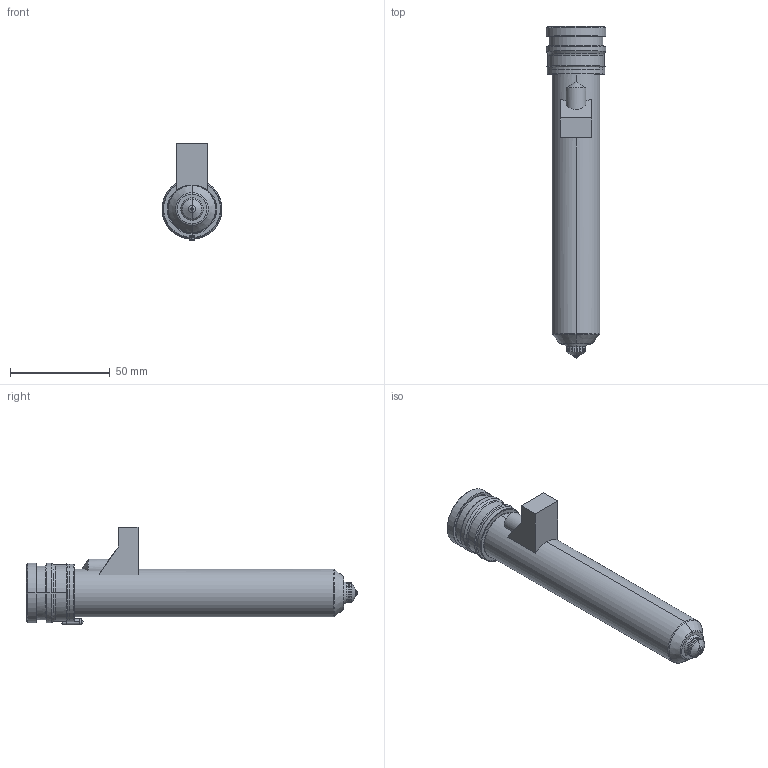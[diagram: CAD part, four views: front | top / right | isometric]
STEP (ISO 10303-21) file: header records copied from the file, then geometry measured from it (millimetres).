
FILE_DESCRIPTION((''),'2;1');
FILE_NAME('MPN-10-29-VSA10-146-M','2026-02-05T13:01:14',('UPTIO'),('Thermoplay S.p.A.'),'CREO PARAMETRIC BY PTC INC, 2023494','CREO PARAMETRIC BY PTC INC, 2023494','');
FILE_SCHEMA(('CONFIG_CONTROL_DESIGN','SHAPE_APPEARANCE_LAYERS_GROUPS'));
Length unit declared in the file: millimetre
Products named in the file (1): MPN-10-29-VSA10-146-M
Bounding box: 30 x 166 x 49 mm (x, y, z)
Volume: 52051 mm3; surface area: 53516.4 mm2
Topology: 3 solids, 5 shells, 546 faces, 1379 edges, 839 vertices
Faces by surface type: cylinder 181, plane 145, bspline 71, torus 69, cone 68, sphere 8, extrusion 4
Entity records: 28650 total; most frequent: CARTESIAN_POINT 12786, ORIENTED_EDGE 2744, DIRECTION 2618, EDGE_CURVE 1372, AXIS2_PLACEMENT_3D 1038, VERTEX_POINT 839, EDGE_LOOP 575, CIRCLE 566
